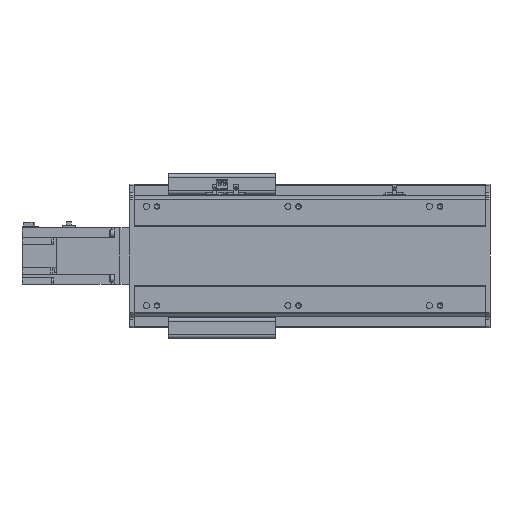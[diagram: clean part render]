
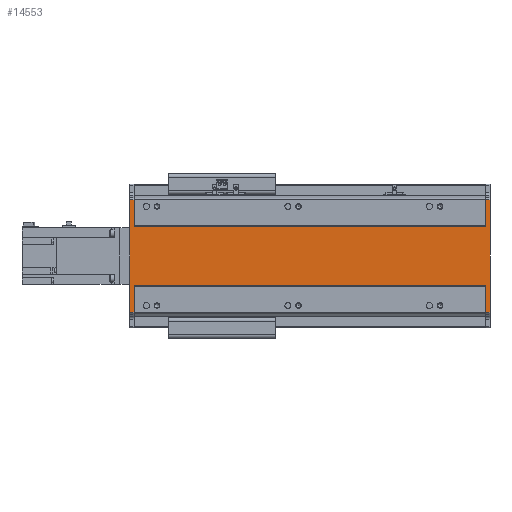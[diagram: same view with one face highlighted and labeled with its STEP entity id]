
A CAD part, front view. The second image highlights one B-rep face of the part: STEP entity #14553.
In plain terms, the highlighted planar face has unit normal (0, -1, 0).
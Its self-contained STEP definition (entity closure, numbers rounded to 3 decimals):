
#3215=ORIENTED_EDGE('',*,*,#6416,.T.);
#3216=ORIENTED_EDGE('',*,*,#6417,.F.);
#3217=ORIENTED_EDGE('',*,*,#6418,.F.);
#3218=ORIENTED_EDGE('',*,*,#6419,.F.);
#3219=ORIENTED_EDGE('',*,*,#6326,.T.);
#3220=ORIENTED_EDGE('',*,*,#6420,.T.);
#3221=ORIENTED_EDGE('',*,*,#6421,.F.);
#3222=ORIENTED_EDGE('',*,*,#6422,.F.);
#3223=ORIENTED_EDGE('',*,*,#6325,.T.);
#3224=ORIENTED_EDGE('',*,*,#6423,.T.);
#3225=ORIENTED_EDGE('',*,*,#6424,.F.);
#3226=ORIENTED_EDGE('',*,*,#6414,.T.);
#6325=EDGE_CURVE('',#8064,#8069,#9437,.T.);
#6326=EDGE_CURVE('',#8070,#8071,#9438,.T.);
#6414=EDGE_CURVE('',#8138,#8137,#9495,.T.);
#6416=EDGE_CURVE('',#8137,#8139,#9496,.T.);
#6417=EDGE_CURVE('',#8140,#8139,#9497,.T.);
#6418=EDGE_CURVE('',#8141,#8140,#9498,.T.);
#6419=EDGE_CURVE('',#8070,#8141,#9499,.T.);
#6420=EDGE_CURVE('',#8071,#8142,#9500,.T.);
#6421=EDGE_CURVE('',#8143,#8142,#9501,.T.);
#6422=EDGE_CURVE('',#8064,#8143,#9502,.T.);
#6423=EDGE_CURVE('',#8069,#8144,#9503,.T.);
#6424=EDGE_CURVE('',#8138,#8144,#9504,.T.);
#8064=VERTEX_POINT('',#23507);
#8069=VERTEX_POINT('',#23517);
#8070=VERTEX_POINT('',#23521);
#8071=VERTEX_POINT('',#23522);
#8137=VERTEX_POINT('',#23694);
#8138=VERTEX_POINT('',#23696);
#8139=VERTEX_POINT('',#23700);
#8140=VERTEX_POINT('',#23702);
#8141=VERTEX_POINT('',#23704);
#8142=VERTEX_POINT('',#23707);
#8143=VERTEX_POINT('',#23709);
#8144=VERTEX_POINT('',#23712);
#9437=LINE('',#23518,#10861);
#9438=LINE('',#23520,#10862);
#9495=LINE('',#23695,#10919);
#9496=LINE('',#23699,#10920);
#9497=LINE('',#23701,#10921);
#9498=LINE('',#23703,#10922);
#9499=LINE('',#23705,#10923);
#9500=LINE('',#23706,#10924);
#9501=LINE('',#23708,#10925);
#9502=LINE('',#23710,#10926);
#9503=LINE('',#23711,#10927);
#9504=LINE('',#23713,#10928);
#10861=VECTOR('',#18785,1000.);
#10862=VECTOR('',#18788,1000.);
#10919=VECTOR('',#18945,1000.);
#10920=VECTOR('',#18950,1000.);
#10921=VECTOR('',#18951,1000.);
#10922=VECTOR('',#18952,1000.);
#10923=VECTOR('',#18953,1000.);
#10924=VECTOR('',#18954,1000.);
#10925=VECTOR('',#18955,1000.);
#10926=VECTOR('',#18956,1000.);
#10927=VECTOR('',#18957,1000.);
#10928=VECTOR('',#18958,1000.);
#11961=EDGE_LOOP('',(#3215,#3216,#3217,#3218,#3219,#3220,#3221,#3222,#3223,
#3224,#3225,#3226));
#13043=FACE_BOUND('',#11961,.T.);
#13872=PLANE('',#15808);
#14553=ADVANCED_FACE('',(#13043),#13872,.F.);
#15808=AXIS2_PLACEMENT_3D('',#23698,#18948,#18949);
#18785=DIRECTION('',(0.,0.,-1.));
#18788=DIRECTION('',(0.,0.,-1.));
#18945=DIRECTION('',(-1.,0.,0.));
#18948=DIRECTION('',(0.,1.,0.));
#18949=DIRECTION('',(0.,0.,1.));
#18950=DIRECTION('',(0.,0.,-1.));
#18951=DIRECTION('',(-1.,0.,0.));
#18952=DIRECTION('',(0.,0.,-1.));
#18953=DIRECTION('',(-1.,0.,0.));
#18954=DIRECTION('',(1.,0.,0.));
#18955=DIRECTION('',(0.,0.,-1.));
#18956=DIRECTION('',(1.,0.,0.));
#18957=DIRECTION('',(-1.,0.,0.));
#18958=DIRECTION('',(0.,0.,-1.));
#23507=CARTESIAN_POINT('',(503.,1.,79.16));
#23517=CARTESIAN_POINT('',(503.,1.,41.793));
#23518=CARTESIAN_POINT('',(503.,1.,79.16));
#23520=CARTESIAN_POINT('',(503.,1.,84.5));
#23521=CARTESIAN_POINT('',(503.,1.,-41.793));
#23522=CARTESIAN_POINT('',(503.,1.,-79.16));
#23694=CARTESIAN_POINT('',(0.,1.,79.16));
#23695=CARTESIAN_POINT('',(6.,1.,79.16));
#23696=CARTESIAN_POINT('',(6.,1.,79.16));
#23698=CARTESIAN_POINT('',(6.,1.,79.16));
#23699=CARTESIAN_POINT('',(0.,1.,79.16));
#23700=CARTESIAN_POINT('',(0.,1.,-79.16));
#23701=CARTESIAN_POINT('',(6.,1.,-79.16));
#23702=CARTESIAN_POINT('',(6.,1.,-79.16));
#23703=CARTESIAN_POINT('',(6.,1.,79.16));
#23704=CARTESIAN_POINT('',(6.,1.,-41.793));
#23705=CARTESIAN_POINT('',(503.,1.,-41.793));
#23706=CARTESIAN_POINT('',(503.,1.,-79.16));
#23707=CARTESIAN_POINT('',(509.,1.,-79.16));
#23708=CARTESIAN_POINT('',(509.,1.,79.16));
#23709=CARTESIAN_POINT('',(509.,1.,79.16));
#23710=CARTESIAN_POINT('',(503.,1.,79.16));
#23711=CARTESIAN_POINT('',(503.,1.,41.793));
#23712=CARTESIAN_POINT('',(6.,1.,41.793));
#23713=CARTESIAN_POINT('',(6.,1.,79.16));
